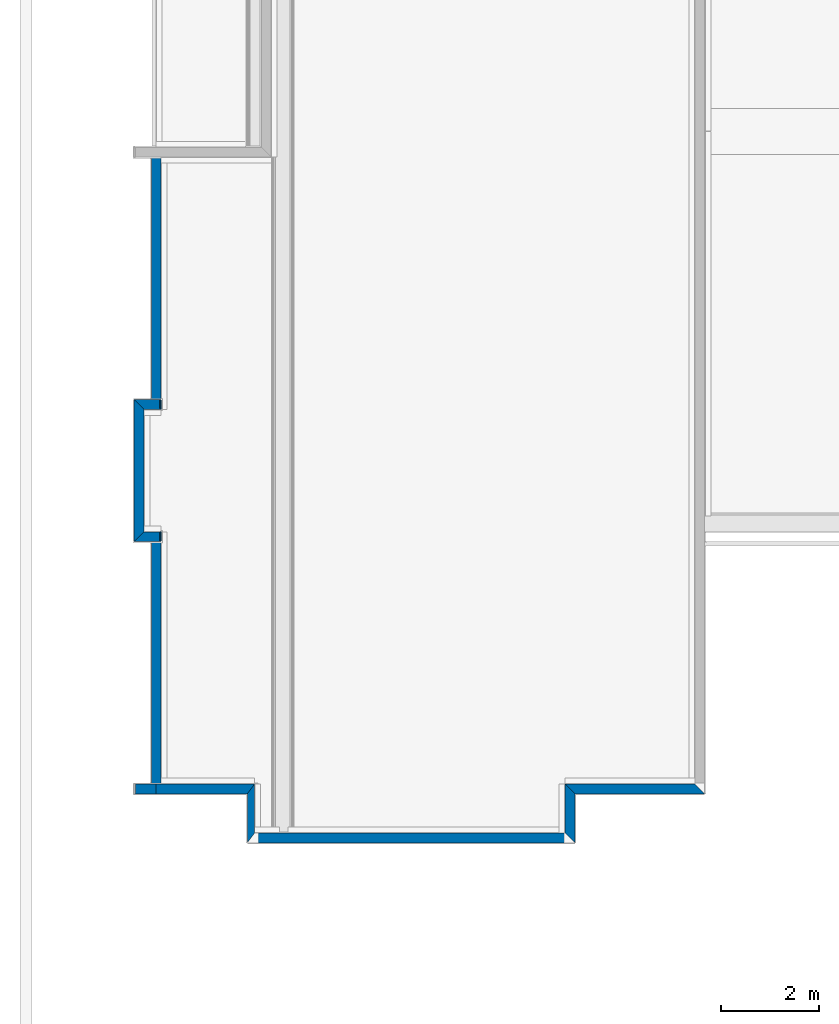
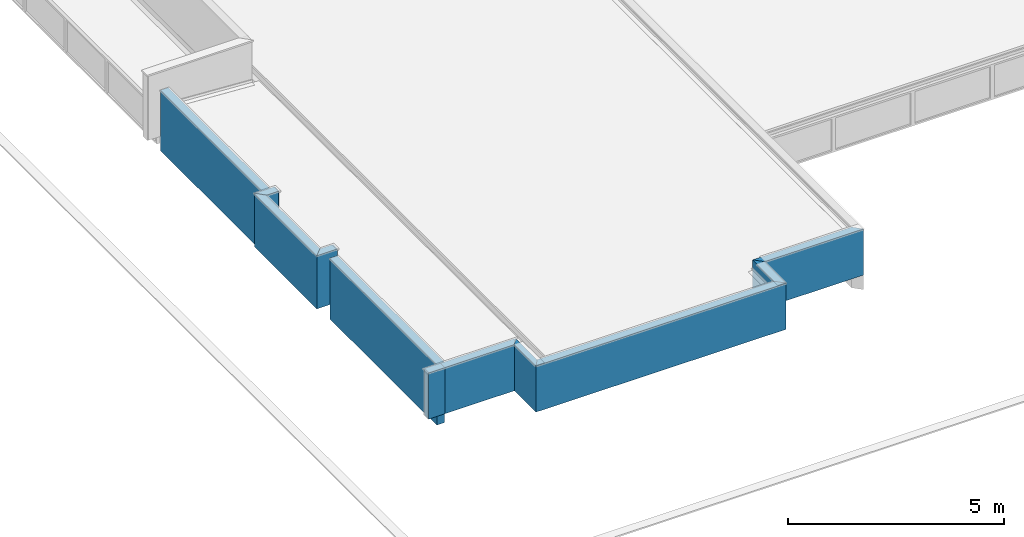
# One storey, part 1 of 25: 13 walls, 3 openings.
"""IFC4 building model written with IfcOpenShell, lengths in metres."""

from ifc_helpers import new_model, entity, si_unit, converted_unit, derived_unit, direction, frame, origin_with_axes, origin_2d_with_axis, place, context, subcontext, project, spatial, line, indexed_curve, rectangle, outline, extrude, polygons, source, transform, mapped, material, layer, layer_set, layer_usage, constituent, constituent_set, type_object, element, fill, save


model = new_model("IFC4")

# Units and contexts
model_context = context("Model", 3, precision=1e-05, world=origin_with_axes(), true_north=direction((0.0, 1.0)))
body_context = subcontext(model_context, "Body", "Model", "MODEL_VIEW")
ifc_project = project(units=[si_unit("LENGTHUNIT", "METRE"), si_unit("AREAUNIT", "SQUARE_METRE"), si_unit("VOLUMEUNIT", "CUBIC_METRE"), converted_unit("PLANEANGLEUNIT", "DEGREE", entity("IfcPlaneAngleMeasure", 0.0174532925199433), si_unit("PLANEANGLEUNIT", "RADIAN"), dimensions=[0, 0, 0, 0, 0, 0, 0]), converted_unit("TIMEUNIT", "Year", entity("IfcTimeMeasure", 31557600.0), si_unit("TIMEUNIT", "SECOND"), dimensions=[0, 0, 1, 0, 0, 0, 0]), si_unit("MASSUNIT", "GRAM", prefix="KILO"), si_unit("THERMODYNAMICTEMPERATUREUNIT", "DEGREE_CELSIUS"), si_unit("LUMINOUSINTENSITYUNIT", "LUMEN"), si_unit("ENERGYUNIT", "JOULE", prefix="MEGA"), derived_unit("THERMALCONDUCTANCEUNIT", [(si_unit("POWERUNIT", "WATT"), 1), (si_unit("LENGTHUNIT", "METRE"), -1), (si_unit("THERMODYNAMICTEMPERATUREUNIT", "KELVIN"), -1)]), derived_unit("SPECIFICHEATCAPACITYUNIT", [(si_unit("ENERGYUNIT", "JOULE"), 1), (si_unit("MASSUNIT", "GRAM", prefix="KILO"), -1), (si_unit("THERMODYNAMICTEMPERATUREUNIT", "KELVIN"), -1)]), derived_unit("MASSDENSITYUNIT", [(si_unit("MASSUNIT", "GRAM", prefix="KILO"), 1), (si_unit("VOLUMEUNIT", "CUBIC_METRE"), -1)])], contexts=[model_context])

# Site, building, storey
site_placement = place(None, origin_with_axes())
site = spatial("IfcSite", under=ifc_project, at=site_placement, Name="PADRÃO", CompositionType="ELEMENT")
building_placement = place(site_placement, origin_with_axes())
building = spatial("IfcBuilding", under=site, at=building_placement, Name="CRECHE PRÉ-ESCOLA TIPO 2", CompositionType="ELEMENT")
storey_placement = place(building_placement, frame((0.0, 0.0, 3.26), z_axis=(0.0, 0.0, 1.0), x_axis=(1.0, 0.0, 0.0)))
storey = spatial("IfcBuildingStorey", under=building, at=storey_placement, Name="COBERTURA", CompositionType="ELEMENT", Elevation=3.26)

# Walls
ifc_material_1 = material(Name="EI-REV-Pintura Acrílica Cor Branco Gelo")
ifc_layer_1 = layer(ifc_material_1, 0.015, ventilated="UNKNOWN", Name="EI-REV-Pintura Acrílica Cor Branco Gelo 1")
ifc_material_2 = material(Name="EI-REV-Massa Acrílica (externa)")
ifc_layer_2 = layer(ifc_material_2, 0.005, ventilated="UNKNOWN", Name="EI-REV-Massa Acrílica (externa) 1")
ifc_material_3 = material(Name="EI-REV-Massa única - Fachada")
ifc_layer_3 = layer(ifc_material_3, 0.005, ventilated="UNKNOWN", Name="EI-REV-Massa única - Fachada 1")
ifc_material_4 = material(Name="EI-REV-Chapisco (externo)")
ifc_layer_4 = layer(ifc_material_4, 0.005, ventilated="UNKNOWN", Name="EI-REV-Chapisco (externo) 1")
ifc_material_5 = material(Name="TIJOLO - CERAMICO 9x19x39 - espessura 15cm")
ifc_layer_5 = layer(ifc_material_5, 0.09, ventilated="UNKNOWN", Name="TIJOLO - CERAMICO 9x19x39 - espessura 15cm")
ifc_layer_6 = layer(ifc_material_4, 0.005, ventilated="UNKNOWN", Name="EI-REV-Chapisco (externo) 2")
ifc_layer_7 = layer(ifc_material_3, 0.005, ventilated="UNKNOWN", Name="EI-REV-Massa única - Fachada 2")
ifc_layer_8 = layer(ifc_material_2, 0.005, ventilated="UNKNOWN", Name="EI-REV-Massa Acrílica (externa) 2")
ifc_layer_9 = layer(ifc_material_1, 0.015, ventilated="UNKNOWN", Name="EI-REV-Pintura Acrílica Cor Branco Gelo 2")
ifc_layer_set_1 = layer_set([ifc_layer_1, ifc_layer_2, ifc_layer_3, ifc_layer_4, ifc_layer_5, ifc_layer_6, ifc_layer_7, ifc_layer_8, ifc_layer_9], Name="FNDE-PLAT_AL09-Pintura Branca")
ifc_layer_usage_1 = layer_usage(ifc_layer_set_1, "AXIS2", "POSITIVE", -0.075)
wall_type_1 = type_object("IfcWallType", Name="FNDE-PLAT_AL09-Pintura Branca 150", PredefinedType="NOTDEFINED")
wall_1_placement = place(storey_placement, frame((-35.3050961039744, 5.14999880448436, 0.0), z_axis=(0.0, 0.0, 1.0), x_axis=(0.0, -1.0, 0.0)))
element("IfcWall", 1, at=wall_1_placement, inside=storey, type_object=wall_type_1, material=ifc_layer_usage_1, Name="AL09", PredefinedType="NOTDEFINED", context=body_context, shape_type="SweptSolid", body=[
    extrude(outline(indexed_curve([(0.0999999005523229, -0.0750000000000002), (1.0998620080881, -0.0750000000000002), (0.899862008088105, 0.0750000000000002), (-0.0999999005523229, 0.0750000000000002)], segments=[line(1, 2, 3, 4, 1)])), origin_with_axes(), (0.0, 0.0, 1.0), 1.31),
])
ifc_material_6 = material(Name="EI-REV-Pintura Acrílica Cor Cinza")
ifc_layer_10 = layer(ifc_material_6, 0.015, ventilated="UNKNOWN", Name="EI-REV-Pintura Acrílica Cor Cinza")
ifc_layer_11 = layer(ifc_material_2, 0.005, ventilated="UNKNOWN", Name="EI-REV-Massa Acrílica (externa) 1")
ifc_layer_12 = layer(ifc_material_3, 0.005, ventilated="UNKNOWN", Name="EI-REV-Massa única - Fachada 1")
ifc_layer_13 = layer(ifc_material_4, 0.005, ventilated="UNKNOWN", Name="EI-REV-Chapisco (externo) 1")
ifc_material_7 = material(Name="TIJOLO - CERAMICO 14x19x39 - espessura 20cm")
ifc_layer_14 = layer(ifc_material_7, 0.14, ventilated="UNKNOWN", Name="TIJOLO - CERAMICO 14x19x39 - espessura 20cm")
ifc_layer_15 = layer(ifc_material_4, 0.005, ventilated="UNKNOWN", Name="EI-REV-Chapisco (externo) 2")
ifc_layer_16 = layer(ifc_material_3, 0.005, ventilated="UNKNOWN", Name="EI-REV-Massa única - Fachada 2")
ifc_layer_17 = layer(ifc_material_2, 0.005, ventilated="UNKNOWN", Name="EI-REV-Massa Acrílica (externa) 2")
ifc_layer_18 = layer(ifc_material_1, 0.015, ventilated="UNKNOWN", Name="EI-REV-Pintura Acrílica Cor Branco Gelo")
ifc_layer_set_2 = layer_set([ifc_layer_10, ifc_layer_11, ifc_layer_12, ifc_layer_13, ifc_layer_14, ifc_layer_15, ifc_layer_16, ifc_layer_17, ifc_layer_18], Name="FNDE-PLAT_AL14-Pintura cinza-branca")
ifc_layer_usage_2 = layer_usage(ifc_layer_set_2, "AXIS2", "POSITIVE", -0.1)
wall_type_2 = type_object("IfcWallType", Name="FNDE-PLAT_AL14-Pintura cinza-branca 200", PredefinedType="NOTDEFINED")
wall_2_placement = place(storey_placement, frame((-28.7901211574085, 5.15007093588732, 0.0), z_axis=(0.0, 0.0, 1.0), x_axis=(1.0, 0.0, 0.0)))
element("IfcWall", 2, at=wall_2_placement, inside=storey, type_object=wall_type_2, material=ifc_layer_usage_2, Name="AL14", PredefinedType="NOTDEFINED", context=body_context, shape_type="SweptSolid", body=[
    extrude(outline(indexed_curve([(0.0999999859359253, -0.0999999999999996), (2.75002480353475, -0.0999999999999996), (2.55002480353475, 0.100000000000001), (-0.0999999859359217, 0.100000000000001)], segments=[line(1, 2, 3, 4, 1)])), origin_with_axes(), (0.0, 0.0, 1.0), 1.31),
])
ifc_layer_usage_3 = layer_usage(ifc_layer_set_2, "AXIS2", "POSITIVE", -0.1)
wall_3_placement = place(storey_placement, frame((-37.2401038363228, 5.15000137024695, 0.0), z_axis=(0.0, 0.0, 1.0), x_axis=(0.999999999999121, -1.32597019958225e-06, 0.0)))
element("IfcWall", 3, at=wall_3_placement, inside=storey, type_object=wall_type_2, material=ifc_layer_usage_3, Name="AL14", PredefinedType="NOTDEFINED", context=body_context, shape_type="SweptSolid", body=[
    extrude(outline(indexed_curve([(0.0, -0.0999999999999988), (1.860007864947, -0.0999999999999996), (2.0100075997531, 0.100000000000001), (0.0, 0.100000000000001)], segments=[line(1, 2, 3, 4, 1)])), origin_with_axes(), (0.0, 0.0, 1.0), 1.31),
])
ifc_layer_19 = layer(ifc_material_1, 0.015, ventilated="UNKNOWN", Name="EI-REV-Pintura Acrílica Cor Branco Gelo 1")
ifc_layer_20 = layer(ifc_material_2, 0.005, ventilated="UNKNOWN", Name="EI-REV-Massa Acrílica (externa) 1")
ifc_layer_21 = layer(ifc_material_3, 0.005, ventilated="UNKNOWN", Name="EI-REV-Massa única - Fachada 1")
ifc_layer_22 = layer(ifc_material_4, 0.005, ventilated="UNKNOWN", Name="EI-REV-Chapisco (externo) 1")
ifc_layer_23 = layer(ifc_material_7, 0.14, ventilated="UNKNOWN", Name="TIJOLO - CERAMICO 14x19x39 - espessura 20cm")
ifc_layer_24 = layer(ifc_material_4, 0.005, ventilated="UNKNOWN", Name="EI-REV-Chapisco (externo) 2")
ifc_layer_25 = layer(ifc_material_3, 0.005, ventilated="UNKNOWN", Name="EI-REV-Massa única - Fachada 2")
ifc_layer_26 = layer(ifc_material_2, 0.005, ventilated="UNKNOWN", Name="EI-REV-Massa Acrílica (externa) 2")
ifc_layer_27 = layer(ifc_material_1, 0.015, ventilated="UNKNOWN", Name="EI-REV-Pintura Acrílica Cor Branco Gelo 2")
ifc_layer_set_3 = layer_set([ifc_layer_19, ifc_layer_20, ifc_layer_21, ifc_layer_22, ifc_layer_23, ifc_layer_24, ifc_layer_25, ifc_layer_26, ifc_layer_27], Name="FNDE-PLAT_AL14-Pintura Branca")
ifc_layer_usage_4 = layer_usage(ifc_layer_set_3, "AXIS2", "POSITIVE", -0.1)
wall_type_3 = type_object("IfcWallType", Name="FNDE-PLAT_AL14-Pintura Branca 200", PredefinedType="NOTDEFINED")
wall_4_placement = place(storey_placement, frame((-35.3050961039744, 4.15013679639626, 0.0), z_axis=(0.0, 0.0, 1.0), x_axis=(1.0, 0.0, 0.0)))
element("IfcWall", 4, at=wall_4_placement, inside=storey, type_object=wall_type_3, material=ifc_layer_usage_4, Name="AL14", PredefinedType="NOTDEFINED", context=body_context, shape_type="SweptSolid", body=[
    extrude(outline(indexed_curve([(-0.0750000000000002, -0.0999999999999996), (6.61497479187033, -0.0999999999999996), (6.41497481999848, 0.100000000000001), (0.0750000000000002, 0.100000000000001)], segments=[line(1, 2, 3, 4, 1)])), origin_with_axes(), (0.0, 0.0, 1.0), 1.31),
])
ifc_layer_usage_5 = layer_usage(ifc_layer_set_3, "AXIS2", "POSITIVE", -0.1)
wall_5_placement = place(storey_placement, frame((-28.79012129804, 4.15013679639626, 0.0), z_axis=(0.0, 0.0, 1.0), x_axis=(1.40640754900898e-07, 0.99999999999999, 0.0)))
element("IfcWall", 5, at=wall_5_placement, inside=storey, type_object=wall_type_3, material=ifc_layer_usage_5, Name="AL14", PredefinedType="NOTDEFINED", context=body_context, shape_type="SweptSolid", body=[
    extrude(outline(indexed_curve([(-0.0999999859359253, -0.0999999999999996), (0.899934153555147, -0.0999999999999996), (1.099934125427, 0.0999999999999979), (0.0999999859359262, 0.0999999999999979)], segments=[line(1, 2, 3, 4, 1)])), origin_with_axes(), (0.0, 0.0, 1.0), 1.31),
])
ifc_layer_usage_6 = layer_usage(ifc_layer_set_3, "AXIS2", "NEGATIVE", 0.1)
wall_6_placement = place(storey_placement, frame((-37.2400709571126, 13.0000019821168, -0.409999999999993), z_axis=(0.0, 0.0, 1.0), x_axis=(-9.30491509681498e-08, 0.999999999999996, 0.0)))
element("IfcWall", 6, at=wall_6_placement, inside=storey, type_object=wall_type_3, material=ifc_layer_usage_6, Name="AL14", PredefinedType="NOTDEFINED", context=body_context, shape_type="SweptSolid", body=[
    extrude(outline(indexed_curve([(0.100000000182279, -0.1), (5.04999997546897, -0.1), (5.04999999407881, 0.1), (0.099987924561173, 0.1)], segments=[line(1, 2, 3, 4, 1)])), origin_with_axes(), (0.0, 0.0, 1.0), 1.72),
])
ifc_layer_usage_7 = layer_usage(ifc_layer_set_3, "AXIS2", "NEGATIVE", 0.1)
wall_7_placement = place(storey_placement, frame((-37.2401038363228, 5.15000137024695, -0.409999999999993), z_axis=(0.0, 0.0, 1.0), x_axis=(-3.3321382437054e-08, 0.999999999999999, 0.0)))
element("IfcWall", 7, at=wall_7_placement, inside=storey, type_object=wall_type_3, material=ifc_layer_usage_7, Name="AL14", PredefinedType="NOTDEFINED", context=body_context, shape_type="SweptSolid", body=[
    extrude(outline(indexed_curve([(0.0999998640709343, -0.1), (5.05000578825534, -0.100000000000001), (5.0500058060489, 0.1), (0.100000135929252, 0.0999999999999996)], segments=[line(1, 2, 3, 4, 1)])), origin_with_axes(), (0.0, 0.0, 1.0), 1.72),
])

# Wall, opening
ifc_layer_28 = layer(ifc_material_6, 0.015, ventilated="UNKNOWN", Name="EI-REV-Pintura Acrílica Cor Cinza 1")
ifc_layer_29 = layer(ifc_material_2, 0.005, ventilated="UNKNOWN", Name="EI-REV-Massa Acrílica (externa) 1")
ifc_layer_30 = layer(ifc_material_3, 0.005, ventilated="UNKNOWN", Name="EI-REV-Massa única - Fachada 1")
ifc_layer_31 = layer(ifc_material_4, 0.005, ventilated="UNKNOWN", Name="EI-REV-Chapisco (externo) 1")
ifc_layer_32 = layer(ifc_material_7, 0.14, ventilated="UNKNOWN", Name="TIJOLO - CERAMICO 14x19x39 - espessura 20cm")
ifc_layer_33 = layer(ifc_material_4, 0.005, ventilated="UNKNOWN", Name="EI-REV-Chapisco (externo) 2")
ifc_layer_34 = layer(ifc_material_3, 0.005, ventilated="UNKNOWN", Name="EI-REV-Massa única - Fachada 2")
ifc_layer_35 = layer(ifc_material_2, 0.005, ventilated="UNKNOWN", Name="EI-REV-Massa Acrílica (externa) 2")
ifc_layer_36 = layer(ifc_material_6, 0.015, ventilated="UNKNOWN", Name="EI-REV-Pintura Acrílica Cor Cinza 2")
ifc_layer_set_4 = layer_set([ifc_layer_28, ifc_layer_29, ifc_layer_30, ifc_layer_31, ifc_layer_32, ifc_layer_33, ifc_layer_34, ifc_layer_35, ifc_layer_36], Name="FNDE-PLAT_AL14-Pintura cinza")
ifc_layer_usage_8 = layer_usage(ifc_layer_set_4, "AXIS2", "POSITIVE", -0.1)
wall_type_4 = type_object("IfcWallType", Name="FNDE-PLAT_AL14-Pintura cinza 200", PredefinedType="NOTDEFINED")
wall_8_placement = place(storey_placement, frame((-37.6900712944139, 5.15000196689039, 0.0), z_axis=(0.0, 0.0, 1.0), x_axis=(0.999999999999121, -1.32597019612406e-06, 0.0)))
wall_8 = element("IfcWall", 8, at=wall_8_placement, inside=storey, type_object=wall_type_4, material=ifc_layer_usage_8, Name="AL14", PredefinedType="NOTDEFINED", context=body_context, shape_type="SweptSolid", body=[
    extrude(outline(indexed_curve([(0.0, -0.0999999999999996), (0.449967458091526, -0.0999999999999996), (0.449967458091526, 0.100000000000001), (0.0, 0.100000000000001)], segments=[line(1, 2, 3, 4, 1)])), origin_with_axes(), (0.0, 0.0, 1.0), 1.31),
])
opening_1_placement = place(wall_8_placement, origin_with_axes())
element("IfcOpeningElement", 9, at=opening_1_placement, cuts=wall_8, Name="AL14", context=body_context, shape_type="SweptSolid", body=[
    extrude(rectangle(XDim=0.2, YDim=0.0150000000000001, at=origin_2d_with_axis()), frame((0.00750000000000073, 0.0, 0.0), z_axis=(0.0, 0.0, 1.0), x_axis=(0.0, 1.0, 0.0)), (0.0, 0.0, 1.0), 1.31),
    extrude(rectangle(XDim=0.185, YDim=0.00499999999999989, at=origin_2d_with_axis()), frame((0.0175000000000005, 0.0074999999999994, 0.0), z_axis=(0.0, 0.0, 1.0), x_axis=(0.0, 1.0, 0.0)), (0.0, 0.0, 1.0), 1.31),
    extrude(rectangle(XDim=0.180000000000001, YDim=0.00500000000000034, at=origin_2d_with_axis()), frame((0.0225000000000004, 0.00999999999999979, 0.0), z_axis=(0.0, 0.0, 1.0), x_axis=(0.0, 1.0, 0.0)), (0.0, 0.0, 1.0), 1.31),
])

# Walls, opening
ifc_material_8 = material(Name="EI-REV-Pintura Acrílica Cor Azul Externa")
ifc_layer_37 = layer(ifc_material_8, 0.015, ventilated="UNKNOWN", Name="EI-REV-Pintura Acrílica Cor Azul Externa")
ifc_layer_38 = layer(ifc_material_2, 0.005, ventilated="UNKNOWN", Name="EI-REV-Massa Acrílica (externa) 1")
ifc_layer_39 = layer(ifc_material_3, 0.005, ventilated="UNKNOWN", Name="EI-REV-Massa única - Fachada 1")
ifc_layer_40 = layer(ifc_material_4, 0.005, ventilated="UNKNOWN", Name="EI-REV-Chapisco (externo) 1")
ifc_layer_41 = layer(ifc_material_7, 0.14, ventilated="UNKNOWN", Name="TIJOLO - CERAMICO 14x19x39 - espessura 20cm")
ifc_layer_42 = layer(ifc_material_4, 0.005, ventilated="UNKNOWN", Name="EI-REV-Chapisco (externo) 2")
ifc_layer_43 = layer(ifc_material_3, 0.005, ventilated="UNKNOWN", Name="EI-REV-Massa única - Fachada 2")
ifc_layer_44 = layer(ifc_material_2, 0.005, ventilated="UNKNOWN", Name="EI-REV-Massa Acrílica (externa) 2")
ifc_layer_45 = layer(ifc_material_1, 0.015, ventilated="UNKNOWN", Name="EI-REV-Pintura Acrílica Cor Branco Gelo")
ifc_layer_set_5 = layer_set([ifc_layer_37, ifc_layer_38, ifc_layer_39, ifc_layer_40, ifc_layer_41, ifc_layer_42, ifc_layer_43, ifc_layer_44, ifc_layer_45], Name="FNDE-PLAT_AL14-Pintura Azul - Branca")
ifc_layer_usage_9 = layer_usage(ifc_layer_set_5, "AXIS2", "NEGATIVE", 0.1)
wall_type_5 = type_object("IfcWallType", Name="FNDE-PLAT_AL14-Pintura Azul - Branca 200", PredefinedType="NOTDEFINED")
wall_9_placement = place(storey_placement, frame((-37.1400921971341, 10.3000071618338, 0.0), z_axis=(0.0, 0.0, 1.0), x_axis=(-0.999999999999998, 5.56464622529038e-08, 0.0)))
wall_9 = element("IfcWall", 10, at=wall_9_placement, inside=storey, type_object=wall_type_5, material=ifc_layer_usage_9, Name="AL14", PredefinedType="NOTDEFINED", context=body_context, shape_type="SweptSolid", body=[
    extrude(outline(indexed_curve([(0.0, -0.0999999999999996), (0.350000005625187, -0.0999999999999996), (0.54999999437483, 0.100000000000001), (0.0, 0.100000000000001)], segments=[line(1, 2, 3, 4, 1)])), origin_with_axes(), (0.0, 0.0, 1.0), 1.51),
])
opening_2_placement = place(wall_9_placement, origin_with_axes())
opening_2 = element("IfcOpeningElement", 11, at=opening_2_placement, cuts=wall_9, Name="AL14", ObjectType="Recess", context=body_context, shape_type="SweptSolid", body=[
    extrude(rectangle(XDim=0.185, YDim=0.0150000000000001, at=origin_2d_with_axis()), frame((0.00749999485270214, -0.00749999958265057, 0.0), z_axis=(0.0, 0.0, 1.0), x_axis=(-5.56464620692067e-08, 0.999999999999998, 0.0)), (0.0, 0.0, 1.0), 1.51),
    extrude(rectangle(XDim=0.17, YDim=0.00499999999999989, at=origin_2d_with_axis()), frame((0.017499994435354, 9.73813030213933e-10, 0.0), z_axis=(0.0, 0.0, 1.0), x_axis=(-5.56464620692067e-08, 0.999999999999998, 0.0)), (0.0, 0.0, 1.0), 1.51),
    extrude(rectangle(XDim=0.165000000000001, YDim=0.00499999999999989, at=origin_2d_with_axis()), frame((0.0224999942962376, 0.00250000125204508, 0.0), z_axis=(0.0, 0.0, 1.0), x_axis=(-5.56464620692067e-08, 0.999999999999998, 0.0)), (0.0, 0.0, 1.0), 1.51),
])
ifc_constituent_1 = constituent(ifc_material_1, Name="EI-REV-Pintura Acrílica Cor Branco Gelo")
ifc_constituent_2 = constituent(ifc_material_2, Name="EI-REV-Massa Acrílica (externa)")
ifc_constituent_3 = constituent(ifc_material_3, Name="EI-REV-Massa única - Fachada")
ifc_constituent_set_1 = constituent_set(constituents=[ifc_constituent_1, ifc_constituent_2, ifc_constituent_3])
wall_type_6 = type_object("IfcWallType", Name="Arremate com Dobra Revest 27", PredefinedType="NOTDEFINED")
shared_shape_1 = source(origin_with_axes(), body_context, "Body", "Tessellation", [
    polygons([(0.0, 0.0, 0.0), (0.0, -0.015, 0.0), (0.0, -0.015, 1.51), (0.0, 0.0, 1.51), (0.185, 0.0, 0.0), (0.185, -0.015, 0.0), (0.185, -0.015, 1.51), (0.185, 0.0, 1.51)], [[[1, 2, 3, 4]], [[5, 6, 2, 1]], [[6, 7, 3, 2]], [[7, 8, 4, 3]], [[8, 5, 1, 4]], [[5, 8, 7, 6]]], closed=True),
    polygons([(0.015, -0.015, 0.0), (0.015, -0.02, 0.0), (0.015, -0.02, 1.51), (0.015, -0.015, 1.51), (0.185, -0.015, 0.0), (0.185, -0.02, 0.0), (0.185, -0.02, 1.51), (0.185, -0.015, 1.51)], [[[1, 2, 3, 4]], [[5, 6, 2, 1]], [[6, 7, 3, 2]], [[7, 8, 4, 3]], [[8, 5, 1, 4]], [[5, 8, 7, 6]]], closed=True),
    polygons([(0.02, -0.02, 0.0), (0.02, -0.025, 0.0), (0.02, -0.025, 1.51), (0.02, -0.02, 1.51), (0.185, -0.02, 0.0), (0.185, -0.025, 0.0), (0.185, -0.025, 1.51), (0.185, -0.02, 1.51)], [[[1, 2, 3, 4]], [[5, 6, 2, 1]], [[6, 7, 3, 2]], [[7, 8, 4, 3]], [[8, 5, 1, 4]], [[5, 8, 7, 6]]], closed=True),
])
wall_10_placement = place(opening_2_placement, frame((-0.0125000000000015, 0.0, 0.0), z_axis=(0.0, 0.0, 1.0), x_axis=(1.0, 0.0, 0.0)))
wall_10 = element("IfcWall", 12, at=wall_10_placement, inside=storey, type_object=wall_type_6, material=ifc_constituent_set_1, Name="AL14", PredefinedType="NOTDEFINED", context=body_context, shape_type="MappedRepresentation", body=[
    mapped(shared_shape_1, transform((0.0125000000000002, -0.0999999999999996, 0.0), x_axis=(-5.56464620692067e-08, 0.999999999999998, 0.0), y_axis=(-0.999999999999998, -5.56464620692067e-08, 0.0), z_axis=(0.0, 0.0, 1.0))),
])
fill(opening_2, wall_10)

# Wall
ifc_layer_usage_10 = layer_usage(ifc_layer_set_5, "AXIS2", "NEGATIVE", 0.1)
wall_11_placement = place(storey_placement, frame((-37.5900921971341, 10.3000019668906, 0.0), z_axis=(0.0, 0.0, 1.0), x_axis=(-6.05323537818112e-10, 1.0, 0.0)))
element("IfcWall", 13, at=wall_11_placement, inside=storey, type_object=wall_type_5, material=ifc_layer_usage_10, Name="AL14", PredefinedType="NOTDEFINED", context=body_context, shape_type="SweptSolid", body=[
    extrude(outline(indexed_curve([(0.100005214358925, -0.1), (2.59997885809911, -0.100000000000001), (2.7999667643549, 0.1), (-0.0999947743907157, 0.0999999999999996)], segments=[line(1, 2, 3, 4, 1)])), origin_with_axes(), (0.0, 0.0, 1.0), 1.51),
])

# Walls, opening
ifc_layer_usage_11 = layer_usage(ifc_layer_set_5, "AXIS2", "NEGATIVE", 0.1)
wall_12_placement = place(storey_placement, frame((-37.5900921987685, 12.9999747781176, 0.0), z_axis=(0.0, 0.0, 1.0), x_axis=(0.99999999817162, 6.047115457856e-05, 0.0)))
wall_12 = element("IfcWall", 14, at=wall_12_placement, inside=storey, type_object=wall_type_5, material=ifc_layer_usage_11, Name="AL14", PredefinedType="NOTDEFINED", context=body_context, shape_type="SweptSolid", body=[
    extrude(outline(indexed_curve([(0.0999939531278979, -0.100000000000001), (0.45, -0.100000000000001), (0.45, 0.0999999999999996), (-0.0999939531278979, 0.0999999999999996)], segments=[line(1, 2, 3, 4, 1)])), origin_with_axes(), (0.0, 0.0, 1.0), 1.51),
])
opening_3_placement = place(wall_12_placement, frame((0.449999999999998, 0.0, 0.0), z_axis=(0.0, 0.0, 1.0), x_axis=(1.0, 0.0, 0.0)))
opening_3 = element("IfcOpeningElement", 15, at=opening_3_placement, cuts=wall_12, Name="AL14", ObjectType="Recess", context=body_context, shape_type="SweptSolid", body=[
    extrude(rectangle(XDim=0.185, YDim=0.0150000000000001, at=origin_2d_with_axis()), frame((-0.00749999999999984, -0.00750000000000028, 0.0), z_axis=(0.0, 0.0, 1.0), x_axis=(0.0, -1.0, 0.0)), (0.0, 0.0, 1.0), 1.51),
    extrude(rectangle(XDim=0.170000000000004, YDim=0.00500000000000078, at=origin_2d_with_axis()), frame((-0.0175000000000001, 0.0, 0.0), z_axis=(0.0, 0.0, 1.0), x_axis=(0.0, -1.0, 0.0)), (0.0, 0.0, 1.0), 1.51),
    extrude(rectangle(XDim=0.165000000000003, YDim=0.00499999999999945, at=origin_2d_with_axis()), frame((-0.0224999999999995, 0.00250000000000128, 0.0), z_axis=(0.0, 0.0, 1.0), x_axis=(0.0, -1.0, 0.0)), (0.0, 0.0, 1.0), 1.51),
])
ifc_constituent_4 = constituent(ifc_material_1, Name="EI-REV-Pintura Acrílica Cor Branco Gelo")
ifc_constituent_5 = constituent(ifc_material_2, Name="EI-REV-Massa Acrílica (externa)")
ifc_constituent_6 = constituent(ifc_material_3, Name="EI-REV-Massa única - Fachada")
ifc_constituent_set_2 = constituent_set(constituents=[ifc_constituent_4, ifc_constituent_5, ifc_constituent_6])
shared_shape_2 = source(origin_with_axes(), body_context, "Body", "Tessellation", [
    polygons([(0.015, 0.0, 0.0), (0.015, -0.015, 0.0), (0.015, -0.015, 1.51), (0.015, 0.0, 1.51), (0.2, 0.0, 0.0), (0.2, -0.015, 0.0), (0.2, -0.015, 1.51), (0.2, 0.0, 1.51)], [[[1, 2, 3, 4]], [[5, 6, 2, 1]], [[6, 7, 3, 2]], [[7, 8, 4, 3]], [[8, 5, 1, 4]], [[5, 8, 7, 6]]], closed=True),
    polygons([(0.015, -0.015, 0.0), (0.015, -0.02, 0.0), (0.015, -0.02, 1.51), (0.015, -0.015, 1.51), (0.185, -0.015, 0.0), (0.185, -0.02, 0.0), (0.185, -0.02, 1.51), (0.185, -0.015, 1.51)], [[[1, 2, 3, 4]], [[5, 6, 2, 1]], [[6, 7, 3, 2]], [[7, 8, 4, 3]], [[8, 5, 1, 4]], [[5, 8, 7, 6]]], closed=True),
    polygons([(0.015, -0.02, 0.0), (0.015, -0.025, 0.0), (0.015, -0.025, 1.51), (0.015, -0.02, 1.51), (0.18, -0.02, 0.0), (0.18, -0.025, 0.0), (0.18, -0.025, 1.51), (0.18, -0.02, 1.51)], [[[1, 2, 3, 4]], [[5, 6, 2, 1]], [[6, 7, 3, 2]], [[7, 8, 4, 3]], [[8, 5, 1, 4]], [[5, 8, 7, 6]]], closed=True),
])
wall_13_placement = place(opening_3_placement, frame((0.0124999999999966, 0.0, 0.0), z_axis=(0.0, 0.0, 1.0), x_axis=(-1.0, 0.0, 0.0)))
wall_13 = element("IfcWall", 16, at=wall_13_placement, inside=storey, type_object=wall_type_6, material=ifc_constituent_set_2, Name="AL14", PredefinedType="NOTDEFINED", context=body_context, shape_type="MappedRepresentation", body=[
    mapped(shared_shape_2, transform((0.0125000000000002, -0.0999999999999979, 0.0), x_axis=(0.0, 1.0, 0.0), y_axis=(-1.0, 0.0, 0.0), z_axis=(0.0, 0.0, 1.0))),
])
fill(opening_3, wall_13)

save(model, "model.ifc")
